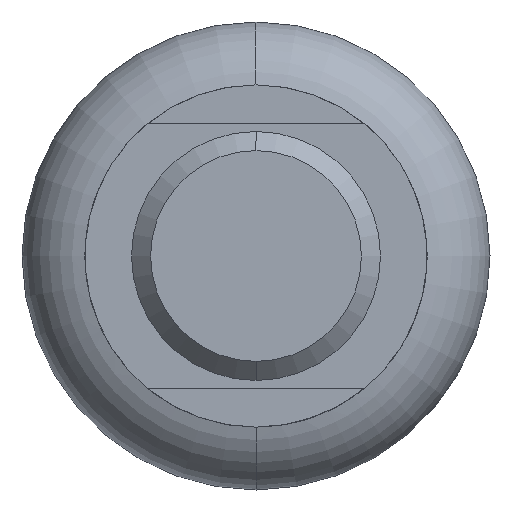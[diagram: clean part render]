
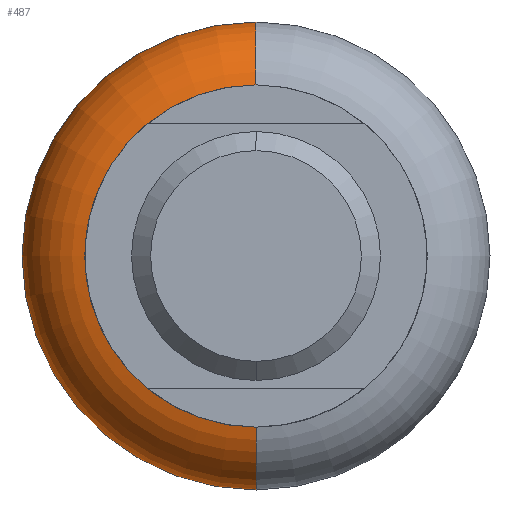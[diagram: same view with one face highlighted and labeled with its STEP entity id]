
A CAD part, front view. The second image highlights one B-rep face of the part: STEP entity #487.
In plain terms, the highlighted toroidal (fillet/blend) face has major radius 10.041 mm and minor radius 5 mm.
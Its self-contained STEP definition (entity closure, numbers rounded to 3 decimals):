
#279=CARTESIAN_POINT('Vertex',(0.,34.093,-11.)) ;
#314=CARTESIAN_POINT('Vertex',(0.,34.093,11.)) ;
#317=CARTESIAN_POINT('Axis2P3D Location',(0.,34.093,0.)) ;
#321=CARTESIAN_POINT('Vertex',(-11.,34.093,0.)) ;
#325=CARTESIAN_POINT('Control Point',(0.,34.093,-11.)) ;
#326=CARTESIAN_POINT('Control Point',(-3.456,34.093,-11.)) ;
#327=CARTESIAN_POINT('Control Point',(-6.915,34.093,-9.647)) ;
#328=CARTESIAN_POINT('Control Point',(-9.647,34.093,-6.915)) ;
#329=CARTESIAN_POINT('Control Point',(-11.,34.093,-3.456)) ;
#330=CARTESIAN_POINT('Control Point',(-11.,34.093,0.)) ;
#456=CARTESIAN_POINT('Axis2P3D Location',(0.,39.,0.)) ;
#461=CARTESIAN_POINT('Axis2P3D Location',(0.,39.,10.041)) ;
#465=CARTESIAN_POINT('Vertex',(0.,39.,15.041)) ;
#468=CARTESIAN_POINT('Axis2P3D Location',(0.,39.,0.)) ;
#472=CARTESIAN_POINT('Vertex',(0.,39.,-15.041)) ;
#475=CARTESIAN_POINT('Axis2P3D Location',(0.,39.,-10.041)) ;
#318=DIRECTION('Axis2P3D Direction',(0.,-1.,0.)) ;
#457=DIRECTION('Axis2P3D Direction',(-0.,1.,0.)) ;
#458=DIRECTION('Axis2P3D XDirection',(0.,0.,-1.)) ;
#462=DIRECTION('Axis2P3D Direction',(-1.,0.,0.)) ;
#469=DIRECTION('Axis2P3D Direction',(-0.,1.,0.)) ;
#476=DIRECTION('Axis2P3D Direction',(1.,0.,0.)) ;
#319=AXIS2_PLACEMENT_3D('Circle Axis2P3D',#317,#318,$) ;
#459=AXIS2_PLACEMENT_3D('Torus Axis2P3D',#456,#457,#458) ;
#463=AXIS2_PLACEMENT_3D('Circle Axis2P3D',#461,#462,$) ;
#470=AXIS2_PLACEMENT_3D('Circle Axis2P3D',#468,#469,$) ;
#477=AXIS2_PLACEMENT_3D('Circle Axis2P3D',#475,#476,$) ;
#481=ORIENTED_EDGE('',*,*,#467,.F.) ;
#482=ORIENTED_EDGE('',*,*,#474,.F.) ;
#483=ORIENTED_EDGE('',*,*,#479,.F.) ;
#484=ORIENTED_EDGE('',*,*,#331,.T.) ;
#485=ORIENTED_EDGE('',*,*,#323,.T.) ;
#487=ADVANCED_FACE('384F-2',(#486),#460,.T.) ;
#324=B_SPLINE_CURVE_WITH_KNOTS('',5,(#325,#326,#327,#328,#329,#330),.UNSPECIFIED.,.F.,.U.,(6,6),(-8.639,8.639),.UNSPECIFIED.) ;
#320=CIRCLE('generated circle',#319,11.) ;
#464=CIRCLE('generated circle',#463,5.) ;
#471=CIRCLE('generated circle',#470,15.041) ;
#478=CIRCLE('generated circle',#477,5.) ;
#460=TOROIDAL_SURFACE('homeo Torus',#459,10.041,5.) ;
#323=EDGE_CURVE('',#322,#315,#320,.F.) ;
#331=EDGE_CURVE('',#280,#322,#324,.T.) ;
#467=EDGE_CURVE('',#466,#315,#464,.F.) ;
#474=EDGE_CURVE('',#473,#466,#471,.T.) ;
#479=EDGE_CURVE('',#280,#473,#478,.T.) ;
#480=EDGE_LOOP('',(#481,#482,#483,#484,#485)) ;
#486=FACE_OUTER_BOUND('',#480,.T.) ;
#280=VERTEX_POINT('',#279) ;
#315=VERTEX_POINT('',#314) ;
#322=VERTEX_POINT('',#321) ;
#466=VERTEX_POINT('',#465) ;
#473=VERTEX_POINT('',#472) ;
